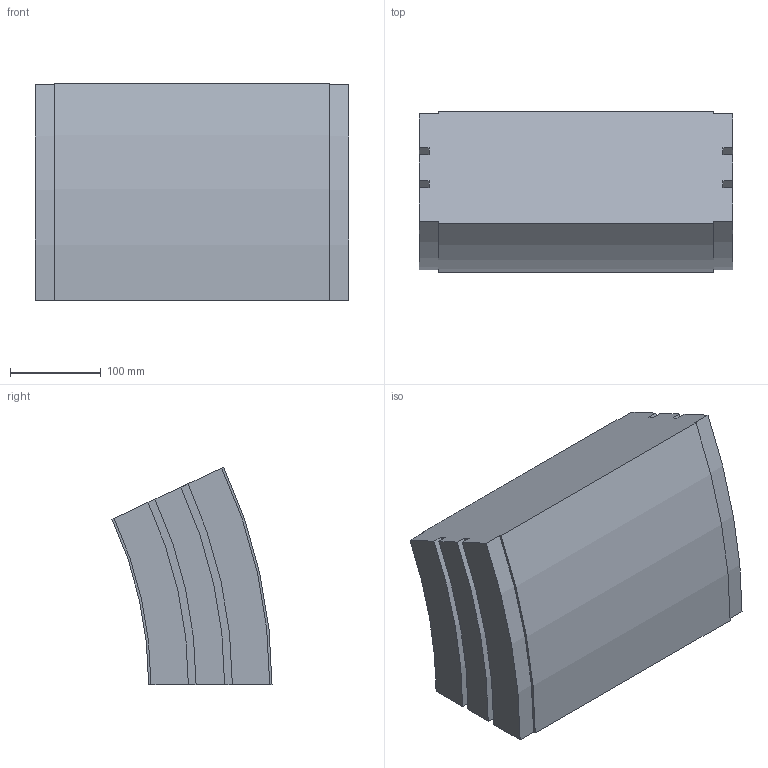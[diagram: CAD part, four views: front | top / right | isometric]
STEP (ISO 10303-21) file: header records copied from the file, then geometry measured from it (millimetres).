
FILE_DESCRIPTION (( 'STEP AP214' ), '1' );
FILE_NAME ('02.150V25.350.N FS-350-MTC-150 Bocht verticaal 25°.STEP', '2013-03-21T10:51:15', ( 'Gebruiker' ), ( '' ), 'SwSTEP 2.0', 'SolidWorks 2012', '' );
FILE_SCHEMA (( 'AUTOMOTIVE_DESIGN' ));
Length unit declared in the file: millimetre
Products named in the file (1): 02.150V25.350.N FS-350-MTC-150 Bocht verticaal 25°
Bounding box: 346 x 176.47 x 240.05 mm (x, y, z)
Volume: 10138617.6 mm3; surface area: 322454.8 mm2
Topology: 1 solids, 1 shells, 30 faces, 84 edges, 56 vertices
Faces by surface type: plane 16, cylinder 14
Entity records: 1010 total; most frequent: DIRECTION 174, CARTESIAN_POINT 171, ORIENTED_EDGE 168, EDGE_CURVE 84, AXIS2_PLACEMENT_3D 59, VECTOR 56, LINE 56, VERTEX_POINT 56
